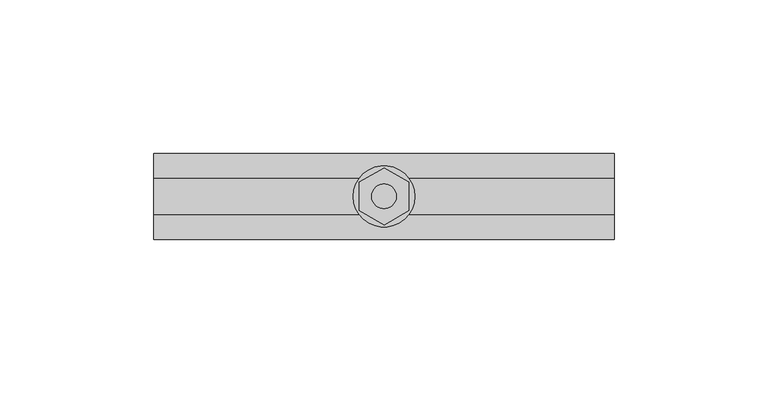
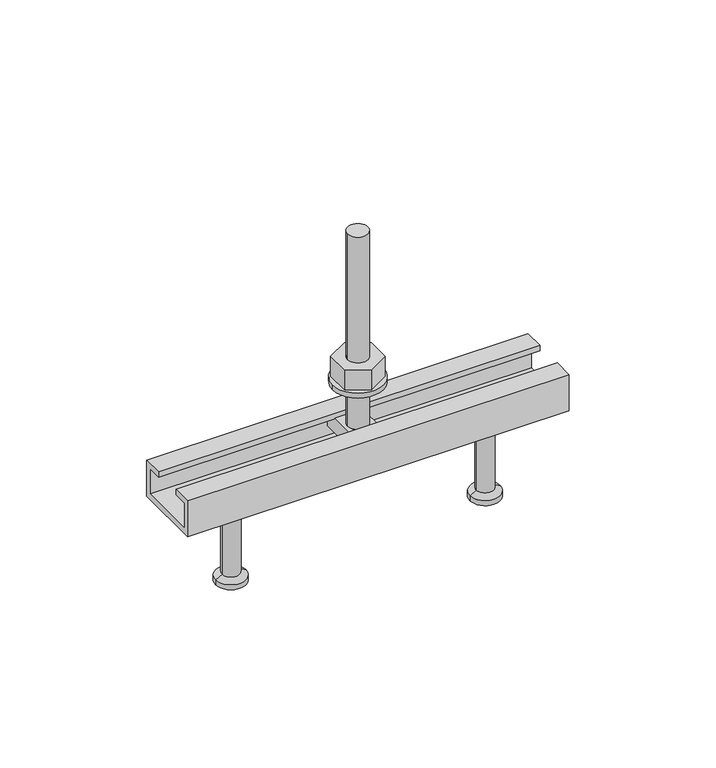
"""IFC4 building model written with IfcOpenShell, lengths in millimetres: fastener geometry, JTA-K JORDAHL® AnchorChannels : JTA-K L=150 mm."""

from ifc_helpers import new_model, si_unit, point, frame, frame_2d, origin, place, context, project, spatial, polyline, circle_curve, trimmed, segment, composite_curve, outline, extrude, source, transform, mapped, element, save
from ifc_brep_helpers import plane_surface, cylinder_surface, revolved_surface, advanced_brep


def fastener_71f67f41(model_context):
    return source(origin(), model_context, "Body", "SolidModel", [
        extrude(outline(polyline([(75.0, 9.2376043), (83.0, 4.6188022), (83.0, -4.6188022), (75.0, -9.2376043), (67.0, -4.6188022), (67.0, 4.6188022), (75.0, 9.2376043)]), holes=[composite_curve([segment(trimmed(circle_curve(frame_2d((75.0, 0.0)), 4.0), [point((71.0, 0.0))], [point((79.0, 0.0))], True, "CARTESIAN"), True, "CONTINUOUS"), segment(trimmed(circle_curve(frame_2d((75.0, 0.0)), 4.0), [point((79.0, 0.0))], [point((71.0, 0.0))], True, "CARTESIAN"), True, "CONTINUOUS")], self_intersect=False)]), frame((0.0, 0.0, 17.0), z_axis=(0.0, 0.0, 1.0), x_axis=(1.0, 0.0, 0.0)), (0.0, 0.0, 1.0), 8.4),
        extrude(outline(composite_curve([segment(trimmed(circle_curve(frame_2d((75.0, 0.0)), 10.0), [point((65.0, 0.0))], [point((85.0, 0.0))], False, "CARTESIAN"), True, "CONTINUOUS"), segment(trimmed(circle_curve(frame_2d((75.0, 0.0)), 10.0), [point((85.0, 0.0))], [point((65.0, 0.0))], False, "CARTESIAN"), True, "CONTINUOUS")], self_intersect=False), holes=[composite_curve([segment(trimmed(circle_curve(frame_2d((75.0, 0.0)), 5.25), [point((69.75, 0.0))], [point((80.25, 0.0))], True, "CARTESIAN"), True, "CONTINUOUS"), segment(trimmed(circle_curve(frame_2d((75.0, 0.0)), 5.25), [point((80.25, 0.0))], [point((69.75, 0.0))], True, "CARTESIAN"), True, "CONTINUOUS")], self_intersect=False)]), frame((0.0, 0.0, 15.0), z_axis=(0.0, 0.0, 1.0), x_axis=(1.0, 0.0, 0.0)), (0.0, 0.0, 1.0), 2.0),
        advanced_brep(
        [(80.5, 11.0, -2.3), (80.5, -11.0, -2.3), (80.5, -11.0, -8.3), (80.5, 11.0, -8.3), (69.5, 11.0, -2.3), (69.5, 11.0, -8.3), (69.5, -11.0, -8.3), (69.5, -11.0, -2.3), (79.0, 0.0, -2.3), (71.0, 0.0, -2.3), (71.0, 0.0, 77.7), (79.0, 0.0, 77.7)],
        [
            (0, 1),
            (1, 2),
            (2, 3),
            (3, 0),
            (4, 5),
            (5, 6),
            (6, 7),
            (7, 4),
            (0, 4),
            (7, 1),
            (8, 9, circle_curve(frame((75.0, 0.0, -2.3), z_axis=(0.0, 0.0, -1.0), x_axis=(1.0, 0.0, 0.0)), 4.0)),
            (9, 8, circle_curve(frame((75.0, 0.0, -2.3), z_axis=(0.0, 0.0, -1.0), x_axis=(1.0, 0.0, 0.0)), 4.0)),
            (6, 2),
            (5, 3),
            (10, 11, circle_curve(frame((75.0, 0.0, 77.7), z_axis=(0.0, 0.0, 1.0), x_axis=(1.0, 0.0, 0.0)), 4.0)),
            (11, 10, circle_curve(frame((75.0, 0.0, 77.7), z_axis=(0.0, 0.0, 1.0), x_axis=(1.0, 0.0, 0.0)), 4.0)),
            (10, 9),
            (8, 11),
        ],
        [
            plane_surface(frame((80.5, -11.0, -2.3), z_axis=(1.0, 0.0, 0.0), x_axis=(0.0, -1.0, 0.0))),
            plane_surface(frame((69.5, -11.0, -2.3), z_axis=(-1.0, 0.0, 0.0), x_axis=(0.0, 1.0, 0.0))),
            plane_surface(frame((80.5, 11.0, -2.3), z_axis=(0.0, 0.0, 1.0), x_axis=(-1.0, 0.0, 0.0))),
            plane_surface(frame((80.5, -11.0, -2.3), z_axis=(0.0, -1.0, 0.0), x_axis=(-1.0, 0.0, 0.0))),
            plane_surface(frame((80.5, -11.0, -8.3), z_axis=(0.0, 0.0, -1.0), x_axis=(-1.0, 0.0, 0.0))),
            plane_surface(frame((80.5, 11.0, -8.3), z_axis=(0.0, 1.0, 0.0), x_axis=(-1.0, 0.0, 0.0))),
            plane_surface(frame((79.0, 0.0, 77.7), z_axis=(0.0, 0.0, 1.0), x_axis=(0.0, 1.0, 0.0))),
            cylinder_surface(frame((75.0, 0.0, -2.3), z_axis=(0.0, 0.0, 1.0), x_axis=(1.0, 0.0, 0.0)), 4.0),
        ],
        [
            (0, [[1, 2, 3, 4]]),
            (1, [[5, 6, 7, 8]]),
            (2, [[-1, 9, -8, 10], [11, 12]]),
            (3, [[-2, -10, -7, 13]]),
            (4, [[-3, -13, -6, 14]]),
            (5, [[-4, -14, -5, -9]]),
            (6, [[15, 16]]),
            (7, [[-15, 17, -11, 18]]),
            (7, [[-16, -18, -12, -17]]),
        ],
    ),
        advanced_brep(
        [(125.0, 0.0, -15.0), (135.5, 0.0, -15.0), (114.5, 0.0, -15.0), (119.0, 0.0, -50.0), (131.0, 0.0, -50.0), (125.0, 0.0, -50.0), (119.0, 0.0, -48.0), (131.0, 0.0, -48.0), (121.5, 0.0, -46.5566243), (128.5, 0.0, -46.5566243), (121.5, 0.0, -17.5), (128.5, 0.0, -17.5)],
        [
            (0, 1),
            (1, 2, circle_curve(frame((125.0, 0.0, -15.0), z_axis=(0.0, 0.0, 1.0), x_axis=(1.0, 0.0, 0.0)), 10.5)),
            (2, 0),
            (2, 1, circle_curve(frame((125.0, 0.0, -15.0), z_axis=(0.0, 0.0, 1.0), x_axis=(1.0, 0.0, 0.0)), 10.5)),
            (3, 4, circle_curve(frame((125.0, 0.0, -50.0), z_axis=(0.0, 0.0, -1.0), x_axis=(1.0, 0.0, 0.0)), 6.0)),
            (4, 5),
            (5, 3),
            (4, 3, circle_curve(frame((125.0, 0.0, -50.0), z_axis=(0.0, 0.0, -1.0), x_axis=(1.0, 0.0, 0.0)), 6.0)),
            (6, 7, circle_curve(frame((125.0, 0.0, -48.0), z_axis=(0.0, 0.0, -1.0), x_axis=(1.0, 0.0, 0.0)), 6.0)),
            (7, 4),
            (3, 6),
            (7, 6, circle_curve(frame((125.0, 0.0, -48.0), z_axis=(0.0, 0.0, -1.0), x_axis=(1.0, 0.0, 0.0)), 6.0)),
            (8, 9, circle_curve(frame((125.0, 0.0, -46.5566243), z_axis=(0.0, 0.0, -1.0), x_axis=(1.0, 0.0, 0.0)), 3.5)),
            (9, 7),
            (6, 8),
            (9, 8, circle_curve(frame((125.0, 0.0, -46.5566243), z_axis=(0.0, 0.0, -1.0), x_axis=(1.0, 0.0, 0.0)), 3.5)),
            (10, 11, circle_curve(frame((125.0, 0.0, -17.5), z_axis=(0.0, 0.0, -1.0), x_axis=(1.0, 0.0, 0.0)), 3.5)),
            (11, 9),
            (8, 10),
            (11, 10, circle_curve(frame((125.0, 0.0, -17.5), z_axis=(0.0, 0.0, -1.0), x_axis=(1.0, 0.0, 0.0)), 3.5)),
            (1, 11),
            (10, 2),
        ],
        [
            plane_surface(frame((125.0, 0.0, -15.0), z_axis=(0.0, 0.0, 1.0), x_axis=(1.0, 0.0, 0.0))),
            plane_surface(frame((125.0, 0.0, -50.0), z_axis=(0.0, 0.0, -1.0), x_axis=(1.0, 0.0, 0.0))),
            cylinder_surface(frame((125.0, 0.0, 2249.3150031), z_axis=(0.0, 0.0, 1.0), x_axis=(1.0, 0.0, 0.0)), 6.0),
            revolved_surface(polyline([(131.0, 0.0, -48.0), (128.5, 0.0, -46.5566243)]), (125.0, 0.0, 2249.3150031), (0.0, 0.0, 1.0)),
            cylinder_surface(frame((125.0, 0.0, 2249.3150031), z_axis=(0.0, 0.0, 1.0), x_axis=(1.0, 0.0, 0.0)), 3.5),
            revolved_surface(polyline([(128.5, 0.0, -17.5), (135.5, 0.0, -15.0)]), (125.0, 0.0, 2249.3150031), (0.0, 0.0, 1.0)),
        ],
        [
            (0, [[1, 2, 3]]),
            (0, [[-3, 4, -1]]),
            (1, [[5, 6, 7]]),
            (1, [[8, -7, -6]]),
            (2, [[9, 10, -5, 11]]),
            (2, [[12, -11, -8, -10]]),
            (3, [[13, 14, -9, 15]]),
            (3, [[16, -15, -12, -14]]),
            (4, [[17, 18, -13, 19]]),
            (4, [[20, -19, -16, -18]]),
            (5, [[-2, 21, -17, 22]]),
            (5, [[-4, -22, -20, -21]]),
        ],
    ),
        advanced_brep(
        [(25.0, 0.0, -15.0), (35.5, 0.0, -15.0), (14.5, 0.0, -15.0), (19.0, 0.0, -50.0), (31.0, 0.0, -50.0), (25.0, 0.0, -50.0), (19.0, 0.0, -48.0), (31.0, 0.0, -48.0), (21.5, 0.0, -46.5566243), (28.5, 0.0, -46.5566243), (21.5, 0.0, -17.5), (28.5, 0.0, -17.5)],
        [
            (0, 1),
            (1, 2, circle_curve(frame((25.0, 0.0, -15.0), z_axis=(0.0, 0.0, 1.0), x_axis=(1.0, 0.0, 0.0)), 10.5)),
            (2, 0),
            (2, 1, circle_curve(frame((25.0, 0.0, -15.0), z_axis=(0.0, 0.0, 1.0), x_axis=(1.0, 0.0, 0.0)), 10.5)),
            (3, 4, circle_curve(frame((25.0, 0.0, -50.0), z_axis=(0.0, 0.0, -1.0), x_axis=(1.0, 0.0, 0.0)), 6.0)),
            (4, 5),
            (5, 3),
            (4, 3, circle_curve(frame((25.0, 0.0, -50.0), z_axis=(0.0, 0.0, -1.0), x_axis=(1.0, 0.0, 0.0)), 6.0)),
            (6, 7, circle_curve(frame((25.0, 0.0, -48.0), z_axis=(0.0, 0.0, -1.0), x_axis=(1.0, 0.0, 0.0)), 6.0)),
            (7, 4),
            (3, 6),
            (7, 6, circle_curve(frame((25.0, 0.0, -48.0), z_axis=(0.0, 0.0, -1.0), x_axis=(1.0, 0.0, 0.0)), 6.0)),
            (8, 9, circle_curve(frame((25.0, 0.0, -46.5566243), z_axis=(0.0, 0.0, -1.0), x_axis=(1.0, 0.0, 0.0)), 3.5)),
            (9, 7),
            (6, 8),
            (9, 8, circle_curve(frame((25.0, 0.0, -46.5566243), z_axis=(0.0, 0.0, -1.0), x_axis=(1.0, 0.0, 0.0)), 3.5)),
            (10, 11, circle_curve(frame((25.0, 0.0, -17.5), z_axis=(0.0, 0.0, -1.0), x_axis=(1.0, 0.0, 0.0)), 3.5)),
            (11, 9),
            (8, 10),
            (11, 10, circle_curve(frame((25.0, 0.0, -17.5), z_axis=(0.0, 0.0, -1.0), x_axis=(1.0, 0.0, 0.0)), 3.5)),
            (1, 11),
            (10, 2),
        ],
        [
            plane_surface(frame((25.0, 0.0, -15.0), z_axis=(0.0, 0.0, 1.0), x_axis=(1.0, 0.0, 0.0))),
            plane_surface(frame((25.0, 0.0, -50.0), z_axis=(0.0, 0.0, -1.0), x_axis=(1.0, 0.0, 0.0))),
            cylinder_surface(frame((25.0, 0.0, 2249.3150031), z_axis=(0.0, 0.0, 1.0), x_axis=(1.0, 0.0, 0.0)), 6.0),
            revolved_surface(polyline([(31.0, 0.0, -48.0), (28.5, 0.0, -46.5566243)]), (25.0, 0.0, 2249.3150031), (0.0, 0.0, 1.0)),
            cylinder_surface(frame((25.0, 0.0, 2249.3150031), z_axis=(0.0, 0.0, 1.0), x_axis=(1.0, 0.0, 0.0)), 3.5),
            revolved_surface(polyline([(28.5, 0.0, -17.5), (35.5, 0.0, -15.0)]), (25.0, 0.0, 2249.3150031), (0.0, 0.0, 1.0)),
        ],
        [
            (0, [[1, 2, 3]]),
            (0, [[-3, 4, -1]]),
            (1, [[5, 6, 7]]),
            (1, [[8, -7, -6]]),
            (2, [[9, 10, -5, 11]]),
            (2, [[12, -11, -8, -10]]),
            (3, [[13, 14, -9, 15]]),
            (3, [[16, -15, -12, -14]]),
            (4, [[17, 18, -13, 19]]),
            (4, [[20, -19, -16, -18]]),
            (5, [[-2, 21, -17, 22]]),
            (5, [[-4, -22, -20, -21]]),
        ],
    ),
        extrude(outline(polyline([(14.0, 0.0), (14.0, -15.0), (-14.0, -15.0), (-14.0, 0.0), (-6.0, 0.0), (-6.0, -2.3), (-11.7, -2.3), (-11.7, -12.7), (11.7, -12.7), (11.7, -2.3), (6.0, -2.3), (6.0, 0.0), (14.0, 0.0)])), frame((0.0, 0.0, 0.0), z_axis=(1.0, 0.0, 0.0), x_axis=(0.0, 1.0, 0.0)), (0.0, 0.0, 1.0), 150.0),
    ])


if __name__ == "__main__":
    model = new_model("IFC4")
    model_context = context("Model", 3, world=origin())
    ifc_project = project(units=[si_unit("LENGTHUNIT", "METRE", prefix="MILLI")], contexts=[model_context])
    site = spatial("IfcSite", under=ifc_project)
    building = spatial("IfcBuilding", under=site)
    placement = place(None, origin())
    fastener_shape = fastener_71f67f41(model_context)
    element("IfcFastener", 1, ObjectType="JTA-K JORDAHL® AnchorChannels : JTA-K L=150 mm", at=placement, inside=building, context=model_context, shape_type="MappedRepresentation", body=[
        mapped(fastener_shape, transform((0.0, 0.0, 0.0), x_axis=(1.0, 0.0, 0.0), y_axis=(0.0, 1.0, 0.0), z_axis=(0.0, 0.0, 1.0))),
    ])
    save(model, "model.ifc")
